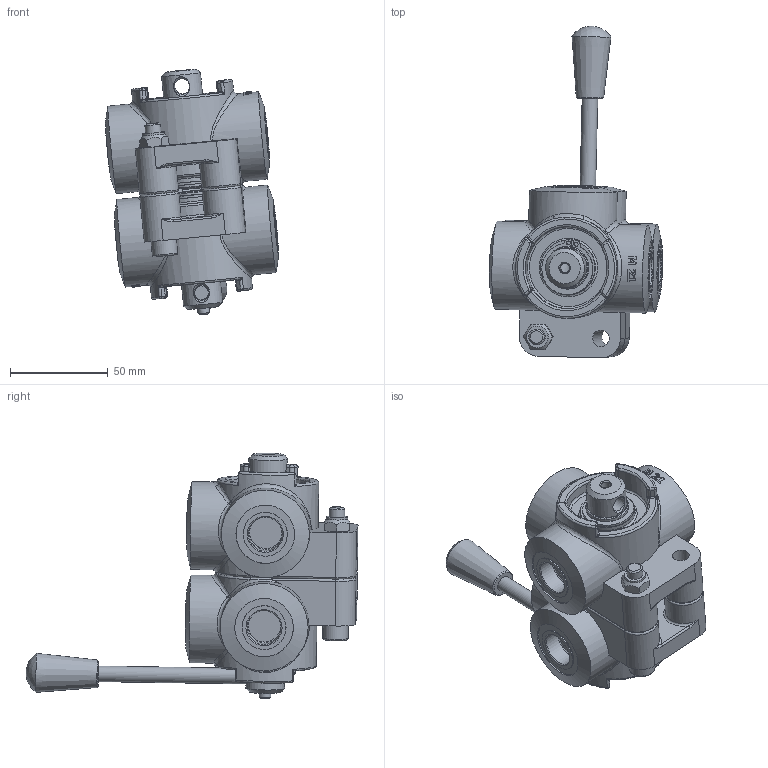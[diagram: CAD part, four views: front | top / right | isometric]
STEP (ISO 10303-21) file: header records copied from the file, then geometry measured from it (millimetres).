
FILE_DESCRIPTION((''),'2;1');
FILE_NAME('G:\HV_HYDRAULIC\AZIENDA_HV_HYDRAULIC\ARCHIVIO_DISEGNI\5_PRODOTTI_FINITI\2_DEVIATORI_INVERTITORI\7003_D6\7003.0101_D6_1-2_G_ca_(HV)\7003.0101.stp','2024-08-26T13:12:32',('christian.scardovi'),(''),'Autodesk Inventor 2013','Autodesk Inventor 2013','');
FILE_SCHEMA(('AUTOMOTIVE_DESIGN { 1 0 10303 214 1 1 1 1 }'));
Length unit declared in the file: millimetre
Products named in the file (1): 7003.0101
Bounding box: 88.6 x 169.87 x 125.67 mm (x, y, z)
Volume: 383047.8 mm3; surface area: 64022.7 mm2
Topology: 1 solids, 1 shells, 595 faces, 1451 edges, 861 vertices
Faces by surface type: plane 184, cylinder 172, torus 93, bspline 88, cone 41, sphere 17
Full cylindrical faces by diameter (mm): 2 x8, 4 x4, 4.917 x1, 6 x1, 8 x3, 8.5 x1, 11.05 x1, 13 x1, 17.5 x6, 20 x2, 21 x4, 21.9 x4, 22 x2, 22.5 x6, 28 x4, 30 x6, 42 x2, 45 x6
Entity records: 27145 total; most frequent: CARTESIAN_POINT 13894, DIRECTION 2592, ORIENTED_EDGE 2508, EDGE_CURVE 1254, AXIS2_PLACEMENT_3D 1110, VERTEX_POINT 814, EDGE_LOOP 762, CIRCLE 602
